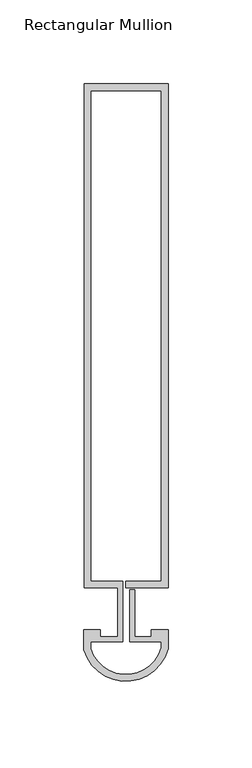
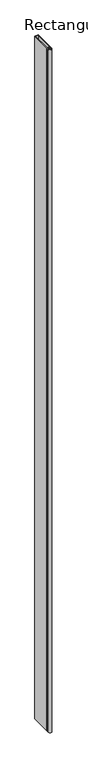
"""IFC4 building model written with IfcOpenShell, lengths in millimetres: member geometry, Rectangular Mullion : Reynaers_CW-50_Mullion-Transom_Vertical_300.5mm_Facecap-07."""

from ifc_helpers import new_model, si_unit, point, frame, frame_2d, origin, place, context, project, spatial, polyline, circle_curve, trimmed, segment, composite_curve, outline, extrude, source, transform, mapped, element, save


def rectangular_mullion_f5329817(model_context):
    return source(origin(), model_context, "Body", "SweptSolid", [
        extrude(outline(composite_curve([segment(polyline([(-24.8004059, 313.0), (25.1995941, 313.0), (25.1995941, 12.5), (0.0, 12.5), (0.0, 16.5), (21.1995941, 16.5), (21.1995941, 309.0), (-20.8004059, 309.0), (-20.8004059, 16.5), (-1.9004059, 16.5), (-1.9004059, -19.5), (-20.994845, -19.5), (-20.994845, -23.684232)]), True, "CONTINUOUS"), segment(trimmed(circle_curve(frame_2d((0.0217873, -17.1383151)), 22.0124479), [point((-20.994845, -23.684232))], [point((21.1995941, -23.1423436))], True, "CARTESIAN"), True, "CONTINUOUS"), segment(polyline([(21.1995941, -23.1423436), (21.1995941, -19.5), (2.2995941, -19.5), (2.2995941, 11.5), (5.2995941, 11.5), (5.2995941, -16.5), (15.2996495, -16.5), (15.2996495, -12.5), (25.1995941, -12.5), (25.1995941, -23.6747887)]), True, "CONTINUOUS"), segment(trimmed(circle_curve(frame_2d((0.0217873, -17.1383151)), 26.0124479), [point((25.1995941, -23.6747887))], [point((-24.994845, -24.2668179))], False, "CARTESIAN"), True, "CONTINUOUS"), segment(polyline([(-24.994845, -24.2668179), (-24.994845, -12.5), (-15.2996495, -12.5), (-15.2996495, -16.5), (-4.9004059, -16.5), (-4.9004059, 12.5), (-24.8004059, 12.5), (-24.8004059, 313.0)]), True, "CONTINUOUS")], self_intersect=False)), frame((0.0, 0.0, -10400.0), z_axis=(0.0, 0.0, 1.0), x_axis=(1.0, 0.0, 0.0)), (0.0, 0.0, 1.0), 10400.0),
    ])


if __name__ == "__main__":
    model = new_model("IFC4")
    model_context = context("Model", 3, world=origin())
    ifc_project = project(units=[si_unit("LENGTHUNIT", "METRE", prefix="MILLI")], contexts=[model_context])
    site = spatial("IfcSite", under=ifc_project)
    building = spatial("IfcBuilding", under=site)
    placement = place(None, origin())
    rectangular_mullion_shape = rectangular_mullion_f5329817(model_context)
    element("IfcMember", 1, ObjectType="Rectangular Mullion : Reynaers_CW-50_Mullion-Transom_Vertical_300.5mm_Facecap-07", at=placement, inside=building, context=model_context, shape_type="MappedRepresentation", body=[
        mapped(rectangular_mullion_shape, transform((0.0, 0.0, 0.0), x_axis=(1.0, 0.0, 0.0), y_axis=(0.0, 1.0, 0.0), z_axis=(0.0, 0.0, 1.0))),
    ])
    save(model, "model.ifc")
